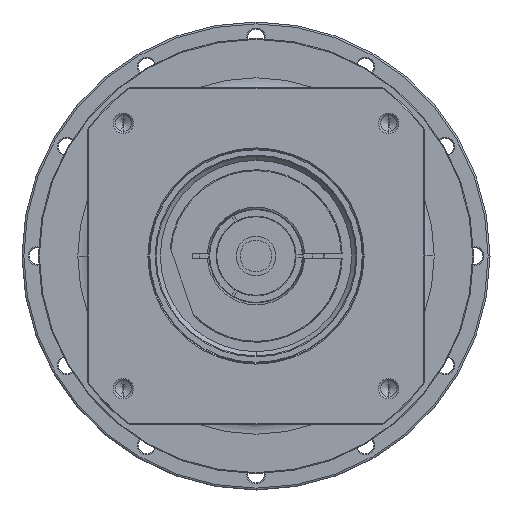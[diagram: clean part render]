
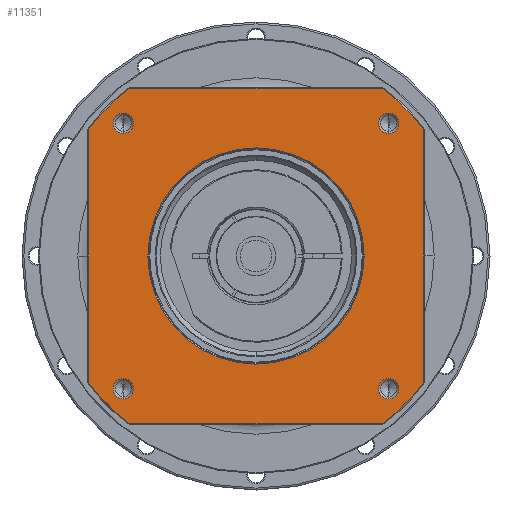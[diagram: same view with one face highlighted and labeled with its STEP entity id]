
A CAD part, left-side view. The second image highlights one B-rep face of the part: STEP entity #11351.
In plain terms, the highlighted planar face has unit normal (-1, 0, 0) as drawn and (0, 0, 1) by its records, which use the part's own axes.
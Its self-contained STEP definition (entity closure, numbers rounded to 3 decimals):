
#10084=DIRECTION('',(1.,0.,0.));
#10085=VECTOR('',#10084,134.666);
#10086=CARTESIAN_POINT('',(-67.333,-89.5,41.));
#10087=LINE('',#10086,#10085);
#10097=CARTESIAN_POINT('',(0.,0.,
41.));
#10098=DIRECTION('',(0.,0.,-1.));
#10099=DIRECTION('',(0.,-1.,0.));
#10100=AXIS2_PLACEMENT_3D('',#10097,#10098,#10099);
#10102=CARTESIAN_POINT('',(0.,0.,
41.));
#10103=DIRECTION('',(0.,0.,-1.));
#10104=DIRECTION('',(0.,1.,0.));
#10105=AXIS2_PLACEMENT_3D('',#10102,#10103,#10104);
#10107=CARTESIAN_POINT('',(0.,0.,41.));
#10108=DIRECTION('',(0.,0.,1.));
#10109=DIRECTION('',(-0.799,-0.601,0.));
#10110=AXIS2_PLACEMENT_3D('',#10107,#10108,#10109);
#10122=DIRECTION('',(0.,-1.,0.));
#10123=VECTOR('',#10122,134.666);
#10124=CARTESIAN_POINT('',(-89.5,67.333,41.));
#10125=LINE('',#10124,#10123);
#10135=CARTESIAN_POINT('',(0.,0.,41.));
#10136=DIRECTION('',(0.,0.,1.));
#10137=DIRECTION('',(-0.601,0.799,0.));
#10138=AXIS2_PLACEMENT_3D('',#10135,#10136,#10137);
#10163=DIRECTION('',(-1.,0.,0.));
#10164=VECTOR('',#10163,134.666);
#10165=CARTESIAN_POINT('',(67.333,89.5,41.));
#10166=LINE('',#10165,#10164);
#10171=CARTESIAN_POINT('',(0.,0.,41.));
#10172=DIRECTION('',(0.,0.,1.));
#10173=DIRECTION('',(0.799,0.601,0.));
#10174=AXIS2_PLACEMENT_3D('',#10171,#10172,#10173);
#10186=DIRECTION('',(0.,1.,0.));
#10187=VECTOR('',#10186,134.666);
#10188=CARTESIAN_POINT('',(89.5,-67.333,41.));
#10189=LINE('',#10188,#10187);
#10291=CARTESIAN_POINT('',(0.,0.,41.));
#10292=DIRECTION('',(0.,0.,1.));
#10293=DIRECTION('',(0.601,-0.799,0.));
#10294=AXIS2_PLACEMENT_3D('',#10291,#10292,#10293);
#10568=CARTESIAN_POINT('',(-70.711,70.711,41.));
#10569=DIRECTION('',(0.,0.,1.));
#10570=DIRECTION('',(-1.,0.,0.));
#10571=AXIS2_PLACEMENT_3D('',#10568,#10569,#10570);
#10586=CARTESIAN_POINT('',(-70.711,70.711,41.));
#10587=DIRECTION('',(0.,0.,1.));
#10588=DIRECTION('',(1.,0.,0.));
#10589=AXIS2_PLACEMENT_3D('',#10586,#10587,#10588);
#10622=CARTESIAN_POINT('',(70.711,70.711,41.));
#10623=DIRECTION('',(0.,0.,1.));
#10624=DIRECTION('',(-1.,0.,0.));
#10625=AXIS2_PLACEMENT_3D('',#10622,#10623,#10624);
#10640=CARTESIAN_POINT('',(70.711,70.711,41.));
#10641=DIRECTION('',(0.,0.,1.));
#10642=DIRECTION('',(1.,0.,0.));
#10643=AXIS2_PLACEMENT_3D('',#10640,#10641,#10642);
#10676=CARTESIAN_POINT('',(70.711,-70.711,41.));
#10677=DIRECTION('',(0.,0.,1.));
#10678=DIRECTION('',(-1.,0.,0.));
#10679=AXIS2_PLACEMENT_3D('',#10676,#10677,#10678);
#10694=CARTESIAN_POINT('',(70.711,-70.711,41.));
#10695=DIRECTION('',(0.,0.,1.));
#10696=DIRECTION('',(1.,0.,0.));
#10697=AXIS2_PLACEMENT_3D('',#10694,#10695,#10696);
#10730=CARTESIAN_POINT('',(-70.711,-70.711,41.));
#10731=DIRECTION('',(0.,0.,1.));
#10732=DIRECTION('',(-1.,0.,0.));
#10733=AXIS2_PLACEMENT_3D('',#10730,#10731,#10732);
#10748=CARTESIAN_POINT('',(-70.711,-70.711,41.));
#10749=DIRECTION('',(0.,0.,1.));
#10750=DIRECTION('',(1.,0.,0.));
#10751=AXIS2_PLACEMENT_3D('',#10748,#10749,#10750);
#10792=CARTESIAN_POINT('',(89.5,-67.333,41.));
#10793=CARTESIAN_POINT('',(89.5,67.333,41.));
#10794=VERTEX_POINT('',#10792);
#10795=VERTEX_POINT('',#10793);
#10800=CARTESIAN_POINT('',(67.333,-89.5,41.));
#10801=VERTEX_POINT('',#10800);
#10804=CARTESIAN_POINT('',(-67.333,-89.5,41.));
#10805=VERTEX_POINT('',#10804);
#10808=CARTESIAN_POINT('',(-89.5,-67.333,41.));
#10809=VERTEX_POINT('',#10808);
#10812=CARTESIAN_POINT('',(-89.5,67.333,41.));
#10813=VERTEX_POINT('',#10812);
#10816=CARTESIAN_POINT('',(-67.333,89.5,41.));
#10817=VERTEX_POINT('',#10816);
#10820=CARTESIAN_POINT('',(67.333,89.5,41.));
#10821=VERTEX_POINT('',#10820);
#10870=CARTESIAN_POINT('',(-76.061,70.711,41.));
#10871=CARTESIAN_POINT('',(-65.361,70.711,41.));
#10872=VERTEX_POINT('',#10870);
#10873=VERTEX_POINT('',#10871);
#10904=CARTESIAN_POINT('',(76.061,70.711,41.));
#10905=CARTESIAN_POINT('',(65.361,70.711,41.));
#10906=VERTEX_POINT('',#10904);
#10907=VERTEX_POINT('',#10905);
#10912=CARTESIAN_POINT('',(76.061,-70.711,41.));
#10913=CARTESIAN_POINT('',(65.361,-70.711,41.));
#10914=VERTEX_POINT('',#10912);
#10915=VERTEX_POINT('',#10913);
#10920=CARTESIAN_POINT('',(-65.361,-70.711,41.));
#10921=CARTESIAN_POINT('',(-76.061,-70.711,41.));
#10922=VERTEX_POINT('',#10920);
#10923=VERTEX_POINT('',#10921);
#10928=CARTESIAN_POINT('',(0.,-57.65,41.));
#10929=CARTESIAN_POINT('',(0.,57.65,41.));
#10930=VERTEX_POINT('',#10928);
#10931=VERTEX_POINT('',#10929);
#11299=CARTESIAN_POINT('',(0.,0.,41.));
#11300=DIRECTION('',(0.,0.,1.));
#11301=DIRECTION('',(1.,0.,0.));
#11302=AXIS2_PLACEMENT_3D('',#11299,#11300,#11301);
#11303=PLANE('',#11302);
#11305=ORIENTED_EDGE('',*,*,#11304,.F.);
#11307=ORIENTED_EDGE('',*,*,#11306,.F.);
#11309=ORIENTED_EDGE('',*,*,#11308,.F.);
#11311=ORIENTED_EDGE('',*,*,#11310,.F.);
#11313=ORIENTED_EDGE('',*,*,#11312,.F.);
#11315=ORIENTED_EDGE('',*,*,#11314,.F.);
#11317=ORIENTED_EDGE('',*,*,#11316,.F.);
#11318=ORIENTED_EDGE('',*,*,#11289,.F.);
#11319=EDGE_LOOP('',(#11305,#11307,#11309,#11311,#11313,#11315,#11317,#11318));
#11320=FACE_OUTER_BOUND('',#11319,.F.);
#11322=ORIENTED_EDGE('',*,*,#11321,.F.);
#11324=ORIENTED_EDGE('',*,*,#11323,.F.);
#11325=EDGE_LOOP('',(#11322,#11324));
#11326=FACE_BOUND('',#11325,.F.);
#11328=ORIENTED_EDGE('',*,*,#11327,.T.);
#11330=ORIENTED_EDGE('',*,*,#11329,.T.);
#11331=EDGE_LOOP('',(#11328,#11330));
#11332=FACE_BOUND('',#11331,.F.);
#11334=ORIENTED_EDGE('',*,*,#11333,.T.);
#11336=ORIENTED_EDGE('',*,*,#11335,.T.);
#11337=EDGE_LOOP('',(#11334,#11336));
#11338=FACE_BOUND('',#11337,.F.);
#11340=ORIENTED_EDGE('',*,*,#11339,.T.);
#11342=ORIENTED_EDGE('',*,*,#11341,.T.);
#11343=EDGE_LOOP('',(#11340,#11342));
#11344=FACE_BOUND('',#11343,.F.);
#11346=ORIENTED_EDGE('',*,*,#11345,.T.);
#11348=ORIENTED_EDGE('',*,*,#11347,.T.);
#11349=EDGE_LOOP('',(#11346,#11348));
#11350=FACE_BOUND('',#11349,.F.);
#11351=ADVANCED_FACE('',(#11320,#11326,#11332,#11338,#11344,#11350),#11303,.T.);
#10101=CIRCLE('',#10100,57.65);
#10106=CIRCLE('',#10105,57.65);
#10111=CIRCLE('',#10110,112.);
#10139=CIRCLE('',#10138,112.);
#10175=CIRCLE('',#10174,112.);
#10295=CIRCLE('',#10294,112.);
#10572=CIRCLE('',#10571,5.35);
#10590=CIRCLE('',#10589,5.35);
#10626=CIRCLE('',#10625,5.35);
#10644=CIRCLE('',#10643,5.35);
#10680=CIRCLE('',#10679,5.35);
#10698=CIRCLE('',#10697,5.35);
#10734=CIRCLE('',#10733,5.35);
#10752=CIRCLE('',#10751,5.35);
#11289=EDGE_CURVE('',#10805,#10801,#10087,.T.);
#11304=EDGE_CURVE('',#10809,#10805,#10111,.T.);
#11306=EDGE_CURVE('',#10813,#10809,#10125,.T.);
#11308=EDGE_CURVE('',#10817,#10813,#10139,.T.);
#11310=EDGE_CURVE('',#10821,#10817,#10166,.T.);
#11312=EDGE_CURVE('',#10795,#10821,#10175,.T.);
#11314=EDGE_CURVE('',#10794,#10795,#10189,.T.);
#11316=EDGE_CURVE('',#10801,#10794,#10295,.T.);
#11321=EDGE_CURVE('',#10930,#10931,#10101,.T.);
#11323=EDGE_CURVE('',#10931,#10930,#10106,.T.);
#11327=EDGE_CURVE('',#10872,#10873,#10572,.T.);
#11329=EDGE_CURVE('',#10873,#10872,#10590,.T.);
#11333=EDGE_CURVE('',#10907,#10906,#10626,.T.);
#11335=EDGE_CURVE('',#10906,#10907,#10644,.T.);
#11339=EDGE_CURVE('',#10915,#10914,#10680,.T.);
#11341=EDGE_CURVE('',#10914,#10915,#10698,.T.);
#11345=EDGE_CURVE('',#10923,#10922,#10734,.T.);
#11347=EDGE_CURVE('',#10922,#10923,#10752,.T.);
